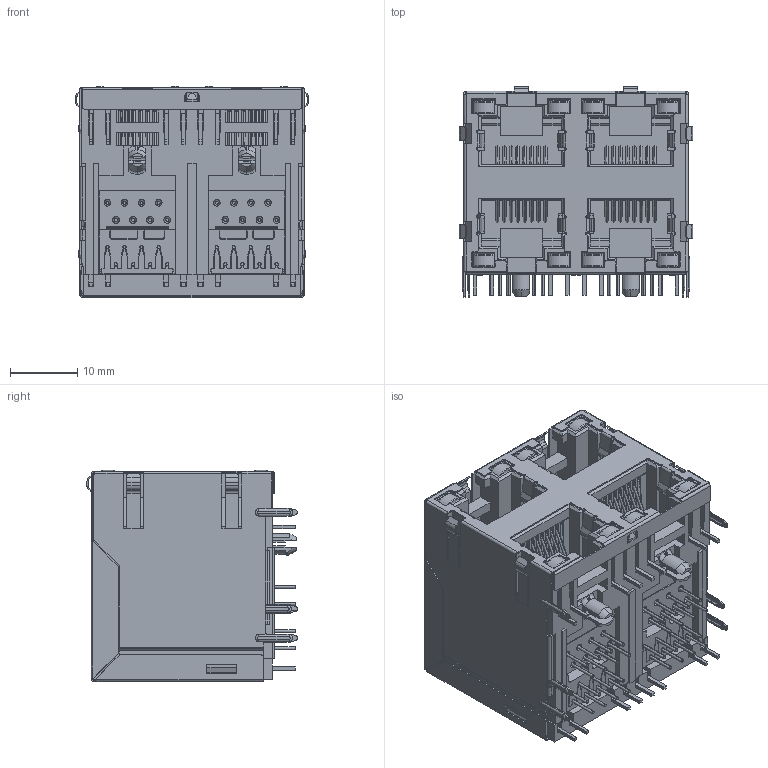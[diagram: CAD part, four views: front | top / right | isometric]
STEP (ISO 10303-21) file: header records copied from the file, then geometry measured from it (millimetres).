
FILE_DESCRIPTION (( 'STEP AP203' ), '1' );
FILE_NAME ('HC-RJ45-059C-2x2-1 (大体积-带灯带弹-HCTL)（英文）.STEP', '2026-03-25T07:41:25', ( '' ), ( '' ), 'SwSTEP 2.0', 'SolidWorks 2025', '' );
FILE_SCHEMA (( 'CONFIG_CONTROL_DESIGN' ));
Products named in the file (1): HC-RJ45-059C-2x2-1 (大体积-带灯带弹-HCTL)（英文）
Bounding box: 34.69 x 31.27 x 31.39 mm (x, y, z)
Volume: 16046.3 mm3; surface area: 37076.6 mm2
Topology: 50 solids, 50 shells, 4309 faces, 11640 edges, 7328 vertices
Faces by surface type: plane 2865, cylinder 1110, torus 184, bspline 66, cone 52, sphere 32
Entity records: 140612 total; most frequent: CARTESIAN_POINT 31883, ORIENTED_EDGE 23280, DIRECTION 22100, EDGE_CURVE 11640, VECTOR 8660, LINE 8660, VERTEX_POINT 7328, AXIS2_PLACEMENT_3D 6720
